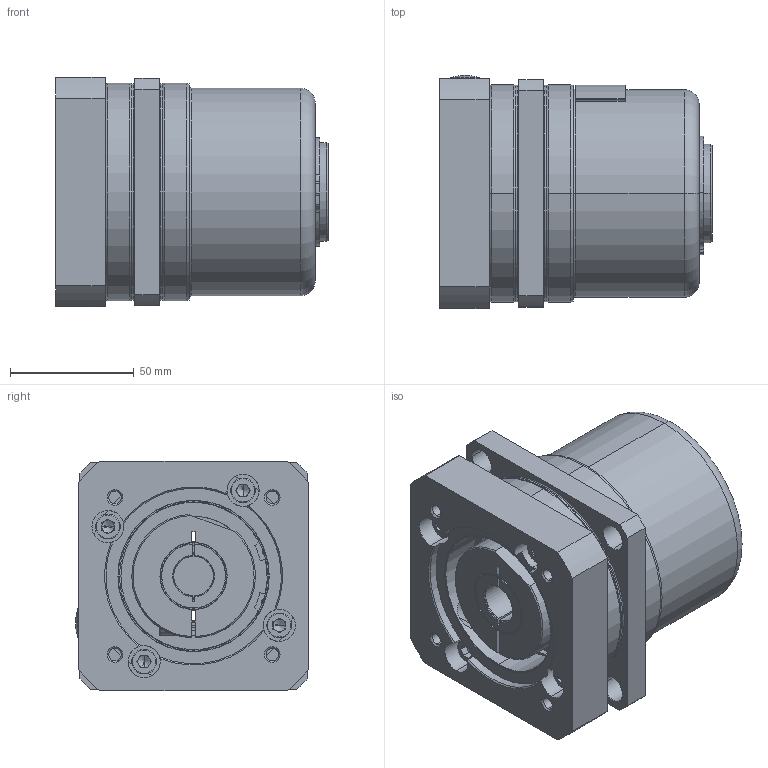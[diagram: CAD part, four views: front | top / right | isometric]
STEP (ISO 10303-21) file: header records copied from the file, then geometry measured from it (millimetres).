
FILE_DESCRIPTION (( 'STEP AP214' ), '1' );
FILE_NAME ('PL-020-0RR-FFF-MMM-F-LL-XXX-AXX-DDCC.STEP', '2019-10-24T15:08:54', ( '' ), ( '' ), 'SwSTEP 2.0', 'SolidWorks 2019', '' );
FILE_SCHEMA (( 'AUTOMOTIVE_DESIGN' ));
Length unit declared in the file: millimetre
Products named in the file (1): PL-020-0RR-FFF-MMM-F-LL-XXX-AXX-DDCC
Bounding box: 110.3 x 94.27 x 93 mm (x, y, z)
Surface area: 75214.8 mm2 (no closed solid volume)
Topology: 0 solids, 21 shells, 341 faces, 1011 edges, 677 vertices
Faces by surface type: cylinder 120, plane 93, cone 82, torus 42, bspline 2, sphere 2
Entity records: 15715 total; most frequent: CARTESIAN_POINT 2813, DIRECTION 2038, ORIENTED_EDGE 1687, EDGE_CURVE 1001, AXIS2_PLACEMENT_3D 809, VERTEX_POINT 677, CIRCLE 469, LINE 420
